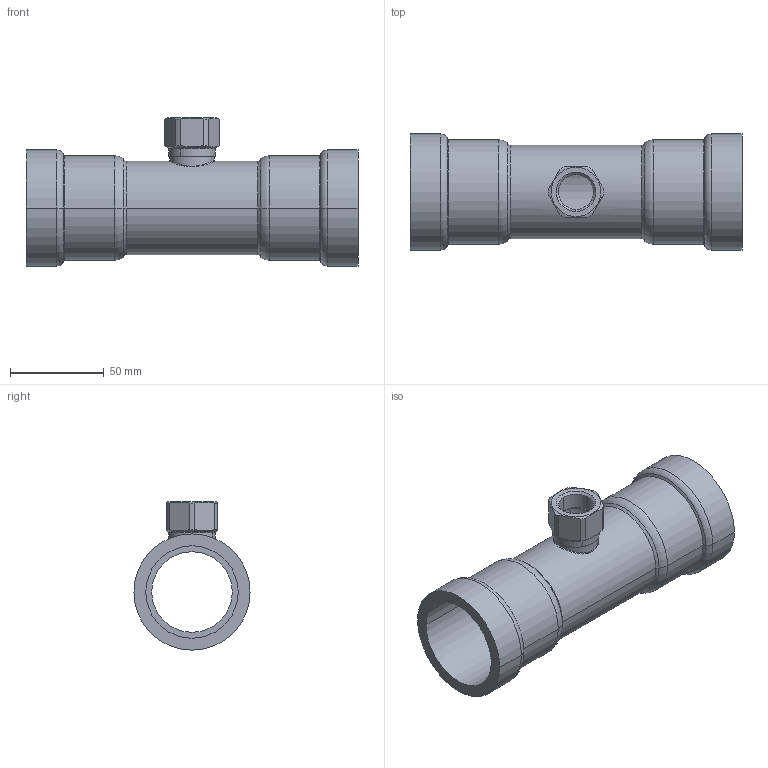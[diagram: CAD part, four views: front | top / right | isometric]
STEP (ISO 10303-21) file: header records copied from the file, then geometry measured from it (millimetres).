
FILE_DESCRIPTION(('Creo Elements/Direct Modeling STEP Export'),'2;1');
FILE_NAME('C9418_1-1-2_Rp1-2_1-1-2.stp','2020-07-17T 9:13:44',(''),(''),'PTC Creo Elements/Direct Modeling STEP processor for AP214 (Solid Model)','PTC Creo Elements/Direct Modeling 19.0C 15-Aug-2015 (C) Parametric Technology GmbH','');
FILE_SCHEMA(('AUTOMOTIVE_DESIGN { 1 0 10303 214 1 1 1 1 }'));
Length unit declared in the file: millimetre
Products named in the file (2): C9418_1-1-2_Rp1-2_1-1-2
Assembly tree (1 placements, depth 2):
  C9418_1-1-2_Rp1-2_1-1-2
    C9418_1-1-2_Rp1-2_1-1-2
Bounding box: 177.18 x 62 x 79.09 mm (x, y, z)
Volume: 122480.9 mm3; surface area: 63683.8 mm2
Topology: 1 solids, 1 shells, 82 faces, 208 edges, 132 vertices
Faces by surface type: cylinder 32, cone 20, torus 14, plane 12, bspline 4
Entity records: 5771 total; most frequent: CARTESIAN_POINT 3884, ORIENTED_EDGE 416, DIRECTION 358, EDGE_CURVE 208, AXIS2_PLACEMENT_3D 150, VERTEX_POINT 132, EDGE_LOOP 90, FACE_OUTER_BOUND 82
